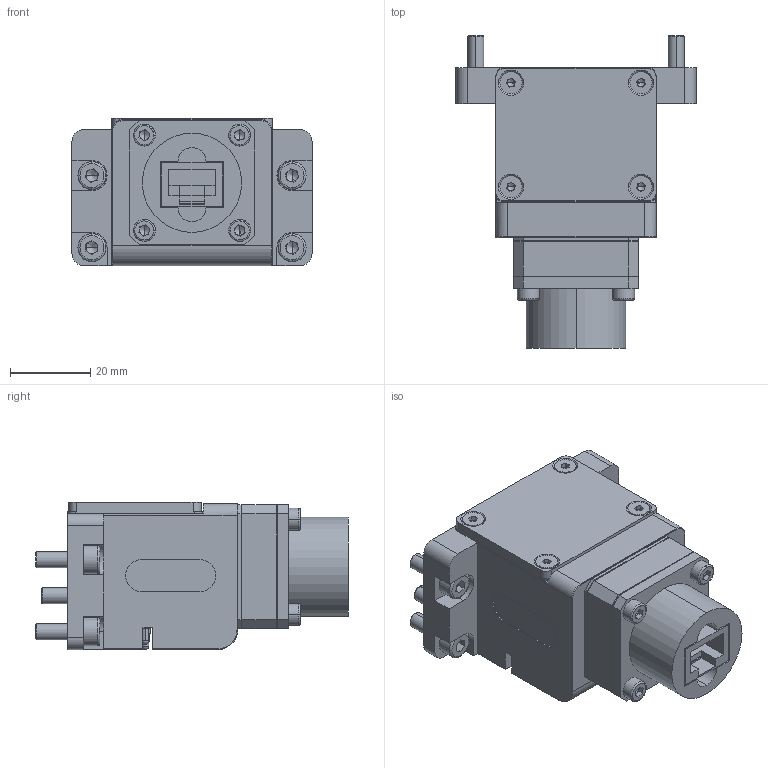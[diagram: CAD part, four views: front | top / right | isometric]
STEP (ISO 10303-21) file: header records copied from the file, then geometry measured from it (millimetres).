
FILE_DESCRIPTION (( 'STEP AP203' ), '1' );
FILE_NAME ('QCSM-RJ45-06G(褫俋楷).STEP', '2024-01-02T01:55:46', ( '' ), ( '' ), 'SwSTEP 2.0', 'SolidWorks 2022', '' );
FILE_SCHEMA (( 'CONFIG_CONTROL_DESIGN' ));
Length unit declared in the file: millimetre
Products named in the file (1): QCSM-RJ45-06G(可外发)
Bounding box: 60 x 78.1 x 36.8 mm (x, y, z)
Volume: 80436.8 mm3; surface area: 19629.5 mm2
Topology: 1 solids, 1 shells, 679 faces, 1654 edges, 1037 vertices
Faces by surface type: plane 353, cylinder 202, cone 79, torus 24, sphere 19, bspline 2
Entity records: 19786 total; most frequent: CARTESIAN_POINT 3754, DIRECTION 3518, ORIENTED_EDGE 3142, EDGE_CURVE 1571, AXIS2_PLACEMENT_3D 1297, VERTEX_POINT 999, LINE 924, VECTOR 924
